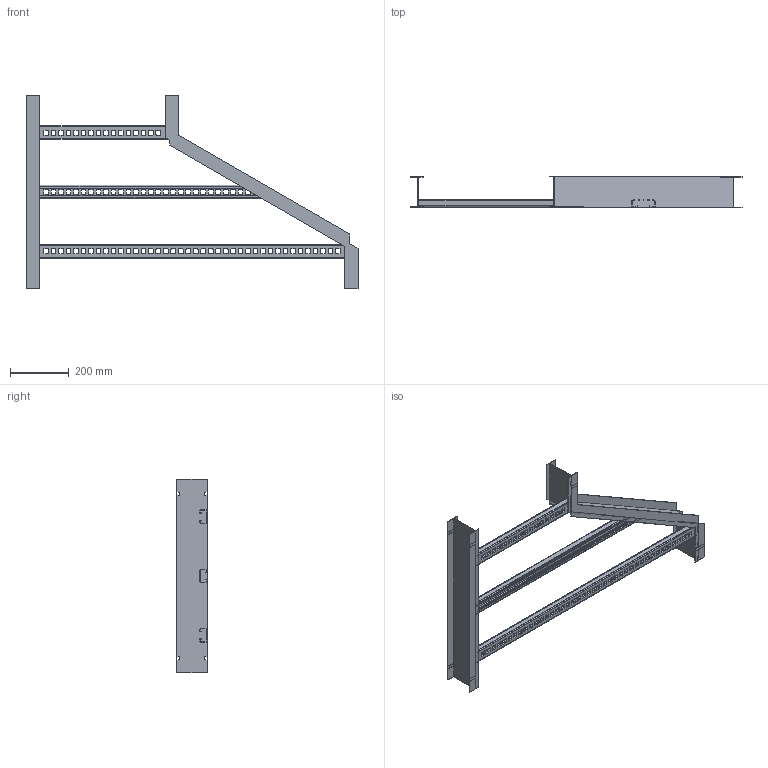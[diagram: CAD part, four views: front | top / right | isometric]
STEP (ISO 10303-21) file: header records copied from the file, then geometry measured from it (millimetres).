
FILE_DESCRIPTION((''),'2;1');
FILE_NAME('AHF54218LHRR_ASM','2010-01-27T',('erouzier'),(''),'PRO/ENGINEER BY PARAMETRIC TECHNOLOGY CORPORATION, 2008510','PRO/ENGINEER BY PARAMETRIC TECHNOLOGY CORPORATION, 2008510','');
FILE_SCHEMA(('CONFIG_CONTROL_DESIGN'));
Length unit declared in the file: inch
Products named in the file (6): CDS013976-5-24; CDS013867-5-240; CDS002159L42-P; CDS002159L36-P_AF1; CDS002159L18-P_AF3; AHF54218LHRR_ASM
Assembly tree (5 placements, depth 2):
  AHF54218LHRR_ASM
    CDS013976-5-24
    CDS013867-5-240
    CDS002159L42-P
    CDS002159L36-P_AF1
    CDS002159L18-P_AF3
Bounding box: 1127 x 106.43 x 656.75 mm (x, y, z)
Volume: 909214.3 mm3; surface area: 1144985.1 mm2
Topology: 5 solids, 5 shells, 875 faces, 2619 edges, 1738 vertices
Faces by surface type: plane 502, cylinder 373
Entity records: 30129 total; most frequent: CARTESIAN_POINT 5329, ORIENTED_EDGE 5238, DIRECTION 5115, EDGE_CURVE 2619, VECTOR 1873, LINE 1873, VERTEX_POINT 1738, AXIS2_PLACEMENT_3D 1621
